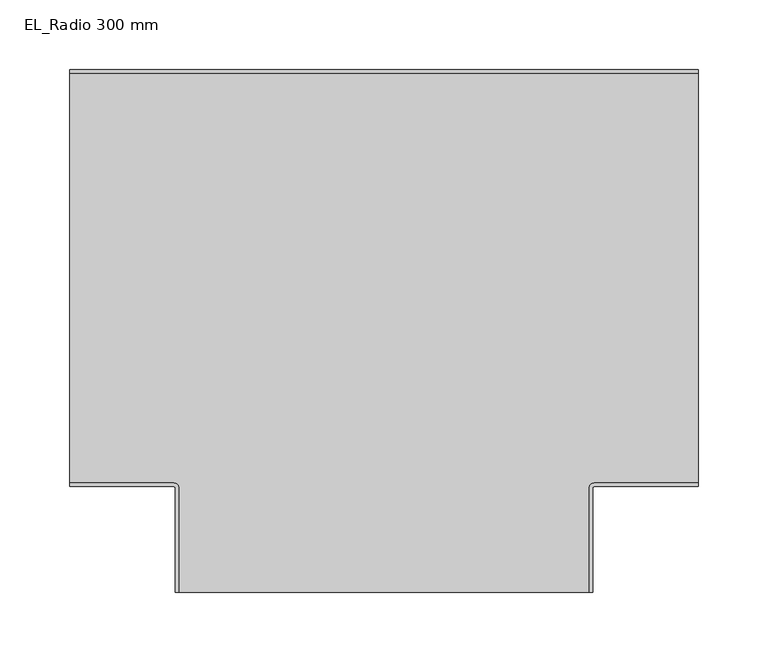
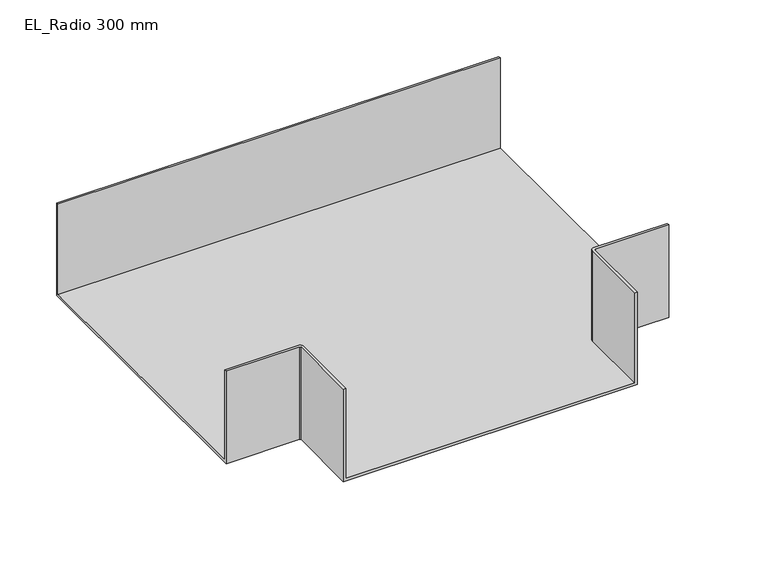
"""IFC4 building model written with IfcOpenShell, lengths in millimetres: cable carrier fitting geometry, M_Te horizontal de canal : EL_Radio 300 mm."""

from ifc_helpers import new_model, si_unit, frame, origin, place, context, project, spatial, polyline, circle_curve, source, transform, mapped, element, save
from ifc_brep_helpers import plane_surface, cylinder_surface, revolved_surface, advanced_brep


def el_radio_300_mm_312ed4b1(model_context):
    return source(origin(), model_context, "Body", "AdvancedBrep", [
        advanced_brep(
        [(-150.0, -151.0, 50.0), (-150.0, -226.0, 50.0), (-147.46, -226.0, 50.0), (-147.46, -151.0, 50.0), (-151.0, -147.46, 50.0), (-226.0, -147.46, 50.0), (-226.0, -150.0, 50.0), (-151.0, -150.0, 50.0), (150.0, -151.0, 50.0), (151.0, -150.0, 50.0), (226.0, -150.0, 50.0), (226.0, -147.46, 50.0), (151.0, -147.46, 50.0), (147.46, -151.0, 50.0), (147.46, -226.0, 50.0), (150.0, -226.0, 50.0), (226.0, 150.0, 50.0), (-226.0, 150.0, 50.0), (-226.0, 147.46, 50.0), (226.0, 147.46, 50.0), (-150.0, -151.0, -50.0), (-151.0, -150.0, -50.0), (-226.0, -150.0, -50.0), (-226.0, 150.0, -50.0), (226.0, 150.0, -50.0), (226.0, -150.0, -50.0), (151.0, -150.0, -50.0), (150.0, -151.0, -50.0), (150.0, -226.0, -50.0), (-150.0, -226.0, -50.0), (-150.0, -151.0, -47.46), (147.46, -226.0, -47.46), (-147.46, -226.0, -47.46), (-147.46, -151.0, -47.46), (-151.0, -147.46, -47.46), (-226.0, -147.46, -47.46), (-226.0, 147.46, -47.46), (-151.0, -150.0, -47.46), (150.0, -151.0, -47.46), (151.0, -150.0, -47.46), (226.0, 147.46, -47.46), (226.0, -147.46, -47.46), (151.0, -147.46, -47.46), (147.46, -151.0, -47.46)],
        [
            (0, 1),
            (1, 2),
            (2, 3),
            (3, 4, circle_curve(frame((-151.0, -151.0, 50.0), z_axis=(0.0, 0.0, 1.0), x_axis=(1.0, 0.0, 0.0)), 3.54)),
            (4, 5),
            (5, 6),
            (6, 7),
            (7, 0, circle_curve(frame((-151.0, -151.0, 50.0), z_axis=(0.0, 0.0, -1.0), x_axis=(1.0, 0.0, 0.0)), 1.0)),
            (8, 9, circle_curve(frame((151.0, -151.0, 50.0), z_axis=(0.0, 0.0, -1.0), x_axis=(1.0, 0.0, 0.0)), 1.0)),
            (9, 10),
            (10, 11),
            (11, 12),
            (12, 13, circle_curve(frame((151.0, -151.0, 50.0), z_axis=(0.0, 0.0, 1.0), x_axis=(1.0, 0.0, 0.0)), 3.54)),
            (13, 14),
            (14, 15),
            (15, 8),
            (16, 17),
            (17, 18),
            (18, 19),
            (19, 16),
            (20, 21, circle_curve(frame((-151.0, -151.0, -50.0), z_axis=(0.0, 0.0, 1.0), x_axis=(1.0, 0.0, 0.0)), 1.0)),
            (21, 22),
            (22, 23),
            (23, 24),
            (24, 25),
            (25, 26),
            (26, 27, circle_curve(frame((151.0, -151.0, -50.0), z_axis=(0.0, 0.0, 1.0), x_axis=(1.0, 0.0, 0.0)), 1.0)),
            (27, 28),
            (28, 29),
            (29, 20),
            (29, 1),
            (0, 30),
            (30, 20),
            (28, 15),
            (14, 31),
            (31, 32),
            (32, 2),
            (32, 33),
            (33, 3),
            (33, 34, circle_curve(frame((-151.0, -151.0, -47.46), z_axis=(0.0, 0.0, 1.0), x_axis=(1.0, 0.0, 0.0)), 3.54)),
            (34, 4),
            (34, 35),
            (35, 5),
            (35, 36),
            (36, 18),
            (17, 23),
            (22, 6),
            (21, 37),
            (37, 7),
            (8, 38),
            (38, 27),
            (26, 39),
            (39, 9),
            (25, 10),
            (24, 16),
            (19, 40),
            (40, 41),
            (41, 11),
            (41, 42),
            (42, 12),
            (42, 43, circle_curve(frame((151.0, -151.0, -47.46), z_axis=(0.0, 0.0, 1.0), x_axis=(1.0, 0.0, 0.0)), 3.54)),
            (43, 13),
            (43, 31),
            (36, 40),
        ],
        [
            plane_surface(frame((-150.0, -151.0, 50.0), z_axis=(0.0, 0.0, 1.0), x_axis=(0.0, -1.0, 0.0))),
            plane_surface(frame((-150.0, -151.0, -50.0), z_axis=(0.0, 0.0, -1.0), x_axis=(0.0, 1.0, 0.0))),
            plane_surface(frame((-150.0, -151.0, 50.0), z_axis=(-1.0, 0.0, 0.0), x_axis=(0.0, 0.0, -1.0))),
            plane_surface(frame((-150.0, -226.0, 50.0), z_axis=(0.0, -1.0, 0.0), x_axis=(0.0, 0.0, -1.0))),
            plane_surface(frame((-147.46, -226.0, 50.0), z_axis=(1.0, 0.0, 0.0), x_axis=(0.0, 0.0, -1.0))),
            cylinder_surface(frame((-151.0, -151.0, -50.0), z_axis=(0.0, 0.0, 1.0), x_axis=(1.0, 0.0, 0.0)), 3.54),
            plane_surface(frame((-151.0, -147.46, 50.0), z_axis=(0.0, 1.0, 0.0), x_axis=(0.0, 0.0, -1.0))),
            plane_surface(frame((-226.0, -147.46, 50.0), z_axis=(-1.0, 0.0, 0.0), x_axis=(0.0, 0.0, -1.0))),
            plane_surface(frame((-226.0, -150.0, 50.0), z_axis=(0.0, -1.0, 0.0), x_axis=(0.0, 0.0, -1.0))),
            revolved_surface(polyline([(-150.0, -151.0, -50.0), (-150.0, -151.0, 50.0)]), (-151.0, -151.0, -50.0), (0.0, 0.0, -1.0)),
            revolved_surface(polyline([(152.0, -151.0, -50.0), (152.0, -151.0, 50.0)]), (151.0, -151.0, 0.0), (0.0, 0.0, -1.0)),
            plane_surface(frame((151.0, -150.0, 50.0), z_axis=(0.0, -1.0, 0.0), x_axis=(0.0, 0.0, -1.0))),
            plane_surface(frame((226.0, -150.0, 50.0), z_axis=(1.0, 0.0, 0.0), x_axis=(0.0, 0.0, -1.0))),
            plane_surface(frame((226.0, -147.46, 50.0), z_axis=(0.0, 1.0, 0.0), x_axis=(0.0, 0.0, -1.0))),
            cylinder_surface(frame((151.0, -151.0, 0.0), z_axis=(0.0, 0.0, 1.0), x_axis=(1.0, 0.0, 0.0)), 3.54),
            plane_surface(frame((147.46, -151.0, 50.0), z_axis=(-1.0, 0.0, 0.0), x_axis=(0.0, 0.0, -1.0))),
            plane_surface(frame((150.0, -226.0, 50.0), z_axis=(1.0, 0.0, 0.0), x_axis=(0.0, 0.0, -1.0))),
            plane_surface(frame((226.0, 150.0, 50.0), z_axis=(0.0, 1.0, 0.0), x_axis=(0.0, 0.0, -1.0))),
            plane_surface(frame((-226.0, 147.46, 50.0), z_axis=(0.0, -1.0, 0.0), x_axis=(0.0, 0.0, -1.0))),
            plane_surface(frame((-150.0, -151.0, -47.46), z_axis=(0.0, 0.0, 1.0), x_axis=(0.0, -1.0, 0.0))),
        ],
        [
            (0, [[1, 2, 3, 4, 5, 6, 7, 8]]),
            (0, [[9, 10, 11, 12, 13, 14, 15, 16]]),
            (0, [[17, 18, 19, 20]]),
            (1, [[21, 22, 23, 24, 25, 26, 27, 28, 29, 30]]),
            (2, [[31, -1, 32, 33, -30]]),
            (3, [[-2, -31, -29, 34, -15, 35, 36, 37]]),
            (4, [[-3, -37, 38, 39]]),
            (5, [[-4, -39, 40, 41]]),
            (6, [[-5, -41, 42, 43]]),
            (7, [[-6, -43, 44, 45, -18, 46, -23, 47]]),
            (8, [[-7, -47, -22, 48, 49]]),
            (9, [[-8, -49, -48, -21, -33, -32]]),
            (10, [[-9, 50, 51, -27, 52, 53]]),
            (11, [[54, -10, -53, -52, -26]]),
            (12, [[-11, -54, -25, 55, -20, 56, 57, 58]]),
            (13, [[-12, -58, 59, 60]]),
            (14, [[-13, -60, 61, 62]]),
            (15, [[-14, -62, 63, -35]]),
            (16, [[-16, -34, -28, -51, -50]]),
            (17, [[-46, -17, -55, -24]]),
            (18, [[-19, -45, 64, -56]]),
            (19, [[-36, -63, -61, -59, -57, -64, -44, -42, -40, -38]]),
        ],
    ),
    ])


if __name__ == "__main__":
    model = new_model("IFC4")
    model_context = context("Model", 3, world=origin())
    ifc_project = project(units=[si_unit("LENGTHUNIT", "METRE", prefix="MILLI")], contexts=[model_context])
    site = spatial("IfcSite", under=ifc_project)
    building = spatial("IfcBuilding", under=site)
    placement = place(None, origin())
    el_radio_300_mm_shape = el_radio_300_mm_312ed4b1(model_context)
    element("IfcCableCarrierFitting", 1, ObjectType="M_Te horizontal de canal : EL_Radio 300 mm", at=placement, inside=building, context=model_context, shape_type="MappedRepresentation", body=[
        mapped(el_radio_300_mm_shape, transform((0.0, 0.0, 0.0), x_axis=(1.0, 0.0, 0.0), y_axis=(0.0, 1.0, 0.0), z_axis=(0.0, 0.0, 1.0))),
    ])
    save(model, "model.ifc")
